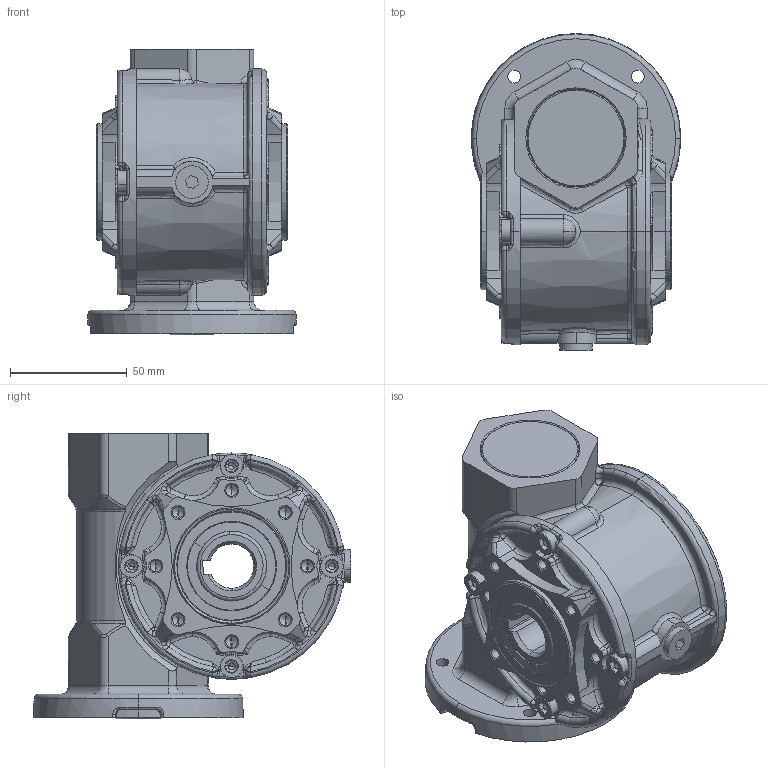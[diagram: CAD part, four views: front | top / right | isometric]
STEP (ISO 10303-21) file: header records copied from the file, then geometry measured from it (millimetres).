
FILE_DESCRIPTION (( 'STEP AP203' ), '1' );
FILE_NAME ('Sestava MRT40A-FT.STEP', '2005-08-15T05:09:25', ( '' ), ( '' ), 'SwSTEP 2.0', 'SolidWorks 2004146', '' );
FILE_SCHEMA (( 'CONFIG_CONTROL_DESIGN' ));
Products named in the file (1): Sestava MRT40A-FT
Bounding box: 89.68 x 136 x 122.5 mm (x, y, z)
Volume: 453604.1 mm3; surface area: 199333.7 mm2
Topology: 23 solids, 23 shells, 2438 faces, 6197 edges, 3592 vertices
Faces by surface type: torus 708, cylinder 558, cone 379, plane 330, bspline 306, sphere 157
Entity records: 228922 total; most frequent: CARTESIAN_POINT 173285, DIRECTION 12072, ORIENTED_EDGE 11660, EDGE_CURVE 5830, AXIS2_PLACEMENT_3D 5434, VERTEX_POINT 3452, CIRCLE 3301, EDGE_LOOP 2588
